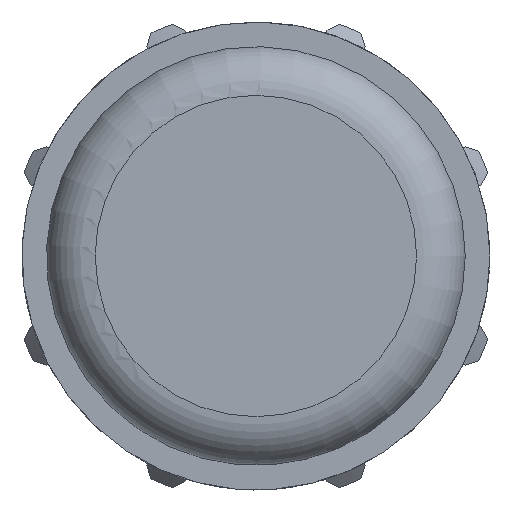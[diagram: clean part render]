
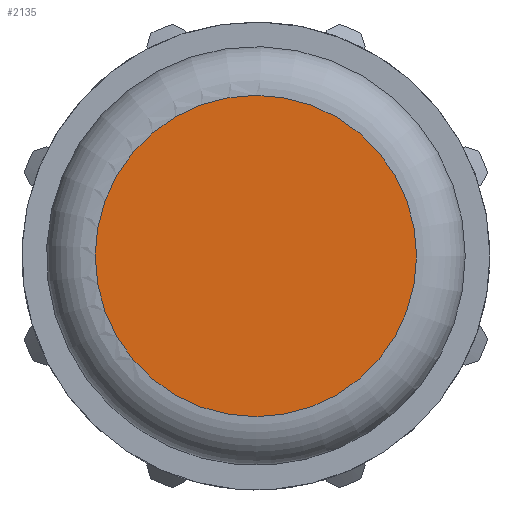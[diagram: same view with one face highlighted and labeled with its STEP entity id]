
A CAD part, left-side view. The second image highlights one B-rep face of the part: STEP entity #2135.
In plain terms, the highlighted planar face has unit normal (-1, 0, 0).
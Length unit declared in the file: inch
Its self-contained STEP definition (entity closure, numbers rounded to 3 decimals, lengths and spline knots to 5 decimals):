
#94=PLANE('',#2282);
#487=FACE_OUTER_BOUND('',#602,.T.);
#602=EDGE_LOOP('',(#1387));
#732=CIRCLE('',#2278,2.32572);
#841=VERTEX_POINT('',#3115);
#1058=EDGE_CURVE('',#841,#841,#732,.T.);
#1387=ORIENTED_EDGE('',*,*,#1058,.F.);
#2135=ADVANCED_FACE('',(#487),#94,.T.);
#2278=AXIS2_PLACEMENT_3D('',#3116,#2518,#2519);
#2282=AXIS2_PLACEMENT_3D('',#3122,#2526,#2527);
#2518=DIRECTION('center_axis',(1.,0.,0.));
#2519=DIRECTION('ref_axis',(0.,1.,0.));
#2526=DIRECTION('center_axis',(-1.,0.,0.));
#2527=DIRECTION('ref_axis',(0.,0.,1.));
#3115=CARTESIAN_POINT('',(0.,-2.32572,0.001));
#3116=CARTESIAN_POINT('Origin',(0.,0.,0.));
#3122=CARTESIAN_POINT('Origin',(0.,3.03025,0.));
